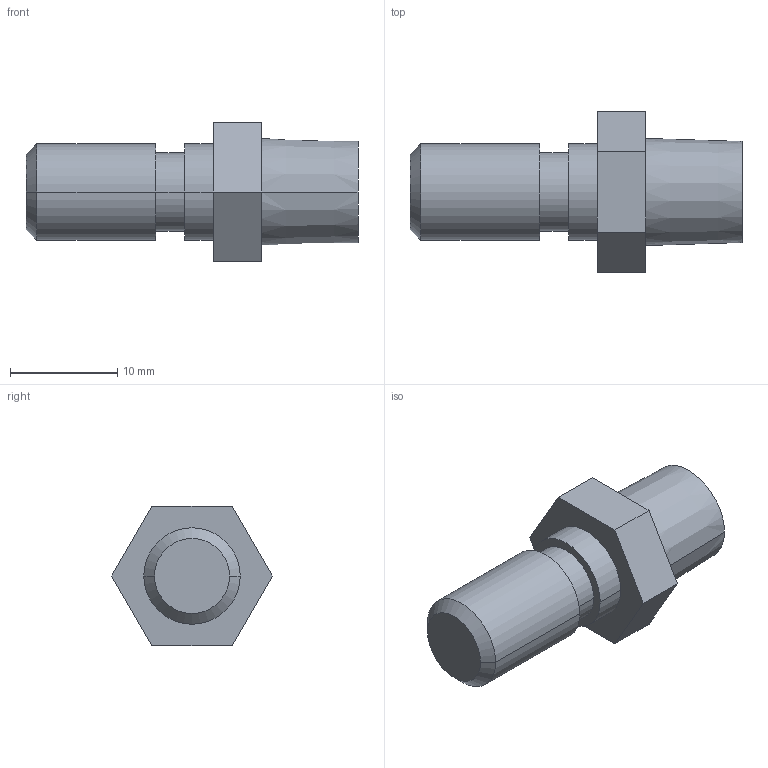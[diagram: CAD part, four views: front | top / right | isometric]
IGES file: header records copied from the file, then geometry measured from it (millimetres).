
Global section: file name: No Iges File Name specified; native system: Autodesk Inventor 2009; preprocessor: AutoDesk Inventor Iges Exporter R2009; author: y-shimohigashi; date: 20080702.105539; units: millimetre
Bounding box: 31 x 15.01 x 13 mm (x, y, z)
Volume: 2367.9 mm3; surface area: 1267.7 mm2
Topology: 1 solids, 1 shells, 22 faces, 46 edges, 30 vertices
Faces by surface type: plane 12, cylinder 6, cone 4
